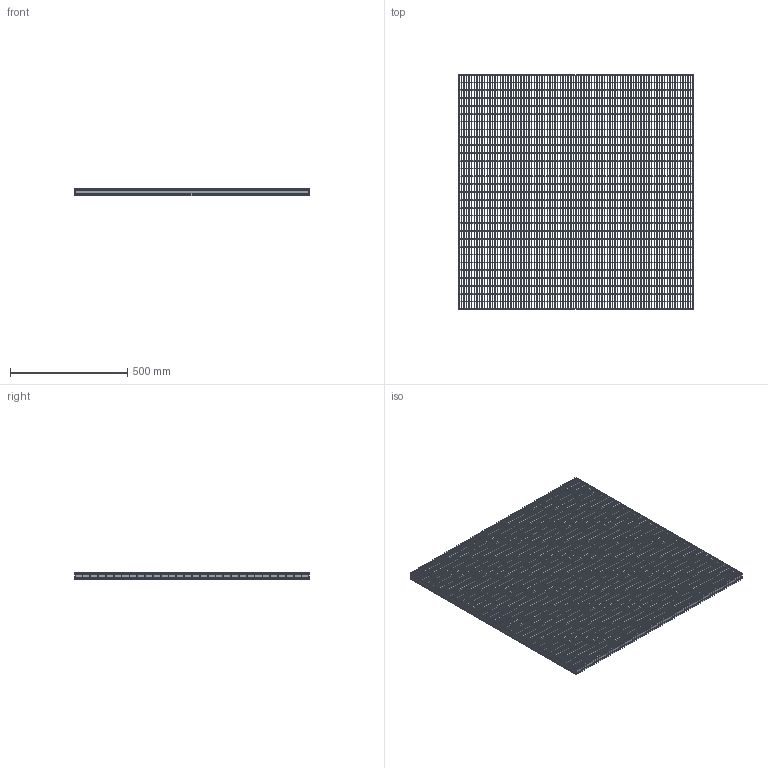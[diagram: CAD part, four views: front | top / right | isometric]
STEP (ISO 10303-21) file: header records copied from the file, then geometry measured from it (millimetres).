
FILE_DESCRIPTION(/* description */ ('STEP AP242','CAx-IF Rec.Pracs.---Representation and Presentation of Product Manufacturing Information (PMI)---4.0---2014-10-13','CAx-IF Rec.Pracs.---3D Tessellated Geometry---0.4---2014-09-14','2;1'),/* implementation_level */ '2;1');
FILE_NAME(/* name */ 'Lichtgitter_Pressure_locked_gratings PX42 330-33_11-3-1-1-1000-1000_(350_0)',/* time_stamp */ '2026-04-23T11:20:58+02:00',/* author */ ('License CC BY-ND 4.0'),/* organization */ ('CADENAS'),/* preprocessor_version */ 'ST-DEVELOPER v20',/* originating_system */ 'PARTsolutions',/* authorisation */ ' ');
FILE_SCHEMA (('AP242_MANAGED_MODEL_BASED_3D_ENGINEERING_MIM_LF { 1 0 10303 442 1 1 4 }'));
Length unit declared in the file: millimetre
Products named in the file (5): Lichtgitter_Pressure_locked_gratings PX42 330-33/11-3-1-1-1000-1000_(
350_0); Lichtgitter PX42 330-11.11/33-3_(Pressroste_350_1_1000_1000)_VERTICAL; Lichtgitter PX42 330-11.11/33-3_(Pressroste_350_1_1000_1000)_HORIZONT
AL_C; Lichtgitter PX42 330-11.11/33-3_(Pressroste_350_1_1000_1000)_HORIZONT
AL; Lichtgitter PX42 330-11.11/33-3_(Pressroste_350_1_1000_1000)_VERTICAL
_C
Assembly tree (122 placements, depth 2):
  Lichtgitter_Pressure_locked_gratings PX42 330-33/11-3-1-1-1000-1000_(
350_0)
    Lichtgitter PX42 330-11.11/33-3_(Pressroste_350_1_1000_1000)_VERTICAL  x2
    Lichtgitter PX42 330-11.11/33-3_(Pressroste_350_1_1000_1000)_HORIZONT
AL_C  x29
    Lichtgitter PX42 330-11.11/33-3_(Pressroste_350_1_1000_1000)_HORIZONT
AL  x2
    Lichtgitter PX42 330-11.11/33-3_(Pressroste_350_1_1000_1000)_VERTICAL
_C  x89
Bounding box: 1000 x 1000 x 30 mm (x, y, z)
Volume: 4556780.3 mm3; surface area: 4361005.8 mm2
Topology: 122 solids, 122 shells, 11104 faces, 32580 edges, 21720 vertices
Faces by surface type: plane 11072, cylinder 32
Entity records: 14247 total; most frequent: CARTESIAN_POINT 2507, ORIENTED_EDGE 2376, DIRECTION 2274, EDGE_CURVE 1188, LINE 1156, VECTOR 1156, VERTEX_POINT 792, AXIS2_PLACEMENT_3D 559
